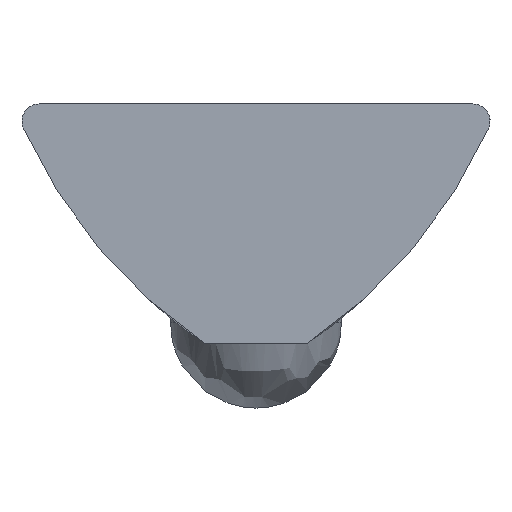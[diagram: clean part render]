
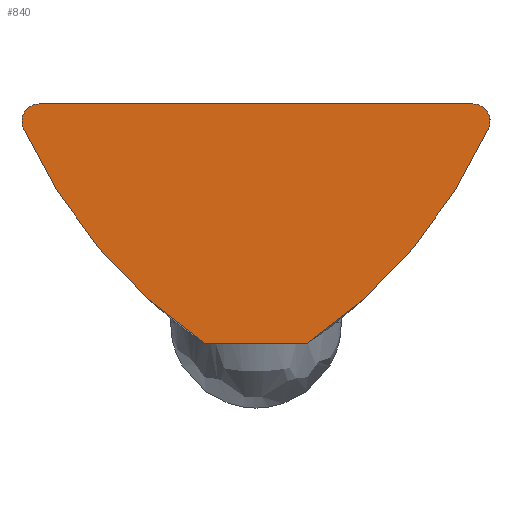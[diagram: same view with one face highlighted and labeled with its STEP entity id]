
A CAD part, left-side view. The second image highlights one B-rep face of the part: STEP entity #840.
In plain terms, the highlighted planar face has unit normal (-1, 0, 0).
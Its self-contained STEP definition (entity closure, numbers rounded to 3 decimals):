
#28 = CARTESIAN_POINT ( 'NONE',  ( -38., 6.35, 0. ) ) ;
#45 = DIRECTION ( 'NONE',  ( 0., 0., -1. ) ) ;
#58 = DIRECTION ( 'NONE',  ( 1., 0., 0. ) ) ;
#74 = EDGE_CURVE ( 'NONE', #557, #267, #846, .T. ) ;
#83 = ORIENTED_EDGE ( 'NONE', *, *, #891, .F. ) ;
#96 = AXIS2_PLACEMENT_3D ( 'NONE', #417, #678, #888 ) ;
#116 = DIRECTION ( 'NONE',  ( 1., 0., 0. ) ) ;
#125 = AXIS2_PLACEMENT_3D ( 'NONE', #882, #817, #132 ) ;
#132 = DIRECTION ( 'NONE',  ( 0., 0., 1. ) ) ;
#160 = DIRECTION ( 'NONE',  ( 1., 0., 0. ) ) ;
#163 = EDGE_CURVE ( 'NONE', #553, #267, #540, .T. ) ;
#243 = CIRCLE ( 'NONE', #125, 0.5 ) ;
#261 = CIRCLE ( 'NONE', #758, 15. ) ;
#263 = ORIENTED_EDGE ( 'NONE', *, *, #555, .F. ) ;
#264 = LINE ( 'NONE', #809, #334 ) ;
#267 = VERTEX_POINT ( 'NONE', #28 ) ;
#276 = CARTESIAN_POINT ( 'NONE',  ( -38., -6.35, 0. ) ) ;
#285 = AXIS2_PLACEMENT_3D ( 'NONE', #539, #58, #815 ) ;
#289 = DIRECTION ( 'NONE',  ( 0., 0., 1. ) ) ;
#301 = VERTEX_POINT ( 'NONE', #802 ) ;
#334 = VECTOR ( 'NONE', #533, 1000. ) ;
#339 = CARTESIAN_POINT ( 'NONE',  ( -38., 1.5, -7. ) ) ;
#354 = ORIENTED_EDGE ( 'NONE', *, *, #163, .F. ) ;
#357 = ORIENTED_EDGE ( 'NONE', *, *, #74, .T. ) ;
#370 = CARTESIAN_POINT ( 'NONE',  ( -38., -1.5, -7. ) ) ;
#401 = VERTEX_POINT ( 'NONE', #339 ) ;
#417 = CARTESIAN_POINT ( 'NONE',  ( -38., -6.876, 5.444 ) ) ;
#425 = CARTESIAN_POINT ( 'NONE',  ( -38., 6.806, -0.705 ) ) ;
#447 = VECTOR ( 'NONE', #717, 1000. ) ;
#465 = ORIENTED_EDGE ( 'NONE', *, *, #535, .F. ) ;
#472 = ORIENTED_EDGE ( 'NONE', *, *, #753, .F. ) ;
#500 = CARTESIAN_POINT ( 'NONE',  ( -38., 6.876, 5.444 ) ) ;
#506 = CARTESIAN_POINT ( 'NONE',  ( -38., 6.35, 0. ) ) ;
#533 = DIRECTION ( 'NONE',  ( 0., 1., 0. ) ) ;
#535 = EDGE_CURVE ( 'NONE', #557, #301, #243, .T. ) ;
#539 = CARTESIAN_POINT ( 'NONE',  ( -38., 6.35, -0.5 ) ) ;
#540 = CIRCLE ( 'NONE', #285, 0.5 ) ;
#553 = VERTEX_POINT ( 'NONE', #425 ) ;
#555 = EDGE_CURVE ( 'NONE', #401, #553, #740, .T. ) ;
#557 = VERTEX_POINT ( 'NONE', #276 ) ;
#602 = AXIS2_PLACEMENT_3D ( 'NONE', #672, #116, #45 ) ;
#633 = VERTEX_POINT ( 'NONE', #370 ) ;
#649 = FACE_OUTER_BOUND ( 'NONE', #867, .T. ) ;
#672 = CARTESIAN_POINT ( 'NONE',  ( -38., -6.35, -0.5 ) ) ;
#678 = DIRECTION ( 'NONE',  ( 1., 0., 0. ) ) ;
#717 = DIRECTION ( 'NONE',  ( 0., 1., 0. ) ) ;
#740 = CIRCLE ( 'NONE', #96, 15. ) ;
#753 = EDGE_CURVE ( 'NONE', #301, #633, #261, .T. ) ;
#758 = AXIS2_PLACEMENT_3D ( 'NONE', #500, #160, #289 ) ;
#795 = PLANE ( 'NONE',  #602 ) ;
#802 = CARTESIAN_POINT ( 'NONE',  ( -38., -6.806, -0.705 ) ) ;
#809 = CARTESIAN_POINT ( 'NONE',  ( -38., -6.35, -7. ) ) ;
#815 = DIRECTION ( 'NONE',  ( 0., 0., 1. ) ) ;
#817 = DIRECTION ( 'NONE',  ( 1., 0., 0. ) ) ;
#840 = ADVANCED_FACE ( 'NONE', ( #649 ), #795, .F. ) ;
#846 = LINE ( 'NONE', #506, #447 ) ;
#867 = EDGE_LOOP ( 'NONE', ( #354, #263, #83, #472, #465, #357 ) ) ;
#882 = CARTESIAN_POINT ( 'NONE',  ( -38., -6.35, -0.5 ) ) ;
#888 = DIRECTION ( 'NONE',  ( 0., 0., 1. ) ) ;
#891 = EDGE_CURVE ( 'NONE', #633, #401, #264, .T. ) ;
